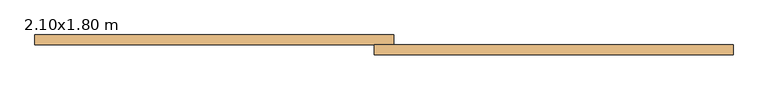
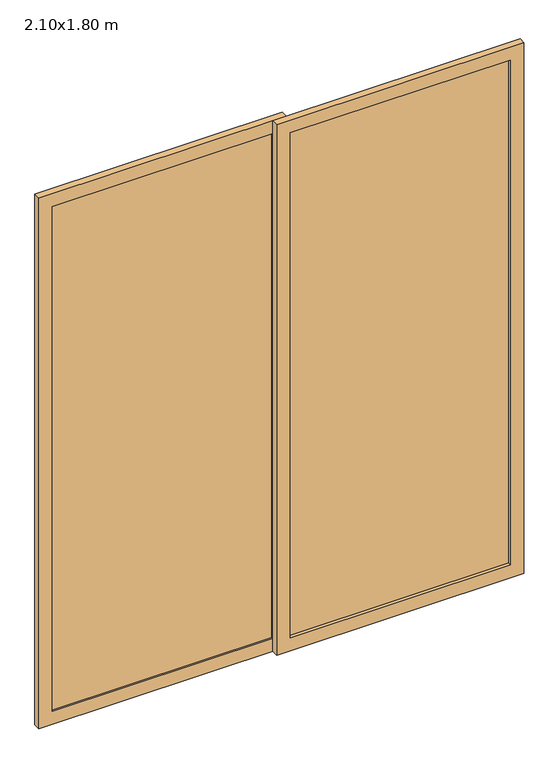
"""IFC4 building model written with IfcOpenShell, lengths in millimetres: door geometry, PUERTA CORREDIZA DE CRISTAL : 2.10x1.80 m."""

from ifc_helpers import new_model, si_unit, frame, origin, place, context, project, spatial, polyline, outline, extrude, source, transform, mapped, element, save


def door_2_10x1_80_m_5b8bd3c6(model_context):
    return source(origin(), model_context, "Body", "SweptSolid", [
        extrude(outline(polyline([(849.2, -6.7), (849.2, -12.7), (25.4, -12.7), (25.4, -6.7), (849.2, -6.7)])), frame((0.0, 0.0, 50.8), z_axis=(0.0, 0.0, 1.0), x_axis=(1.0, 0.0, 0.0)), (0.0, 0.0, 1.0), 1998.4),
        extrude(outline(polyline([(-849.2, 6.7), (-849.2, 12.7), (-25.4, 12.7), (-25.4, 6.7), (-849.2, 6.7)])), frame((0.0, 0.0, 50.8), z_axis=(0.0, 0.0, 1.0), x_axis=(1.0, 0.0, 0.0)), (0.0, 0.0, 1.0), 1998.4),
        extrude(outline(polyline([(2100.0, -25.4), (0.0, -25.4), (0.0, 900.0), (2100.0, 900.0), (2100.0, -25.4)]), holes=[polyline([(2049.2, 849.2), (50.8, 849.2), (50.8, 25.4), (2049.2, 25.4), (2049.2, 849.2)])]), frame((0.0, -25.4, 0.0), z_axis=(0.0, 1.0, 0.0), x_axis=(0.0, 0.0, 1.0)), (0.0, 0.0, 1.0), 25.4),
        extrude(outline(polyline([(2100.0, 25.4), (2100.0, -900.0), (0.0, -900.0), (0.0, 25.4), (2100.0, 25.4)]), holes=[polyline([(2049.2, -25.4), (50.8, -25.4), (50.8, -849.2), (2049.2, -849.2), (2049.2, -25.4)])]), frame((0.0, 0.0, 0.0), z_axis=(0.0, 1.0, 0.0), x_axis=(0.0, 0.0, 1.0)), (0.0, 0.0, 1.0), 25.4),
    ])


if __name__ == "__main__":
    model = new_model("IFC4")
    model_context = context("Model", 3, world=origin())
    ifc_project = project(units=[si_unit("LENGTHUNIT", "METRE", prefix="MILLI")], contexts=[model_context])
    site = spatial("IfcSite", under=ifc_project)
    building = spatial("IfcBuilding", under=site)
    placement = place(None, origin())
    door_2_10x1_80_m_shape = door_2_10x1_80_m_5b8bd3c6(model_context)
    element("IfcDoor", 1, ObjectType="PUERTA CORREDIZA DE CRISTAL : 2.10x1.80 m", at=placement, inside=building, context=model_context, shape_type="MappedRepresentation", body=[
        mapped(door_2_10x1_80_m_shape, transform((0.0, 0.0, 0.0), x_axis=(1.0, 0.0, 0.0), y_axis=(0.0, 1.0, 0.0), z_axis=(0.0, 0.0, 1.0))),
    ])
    save(model, "model.ifc")
